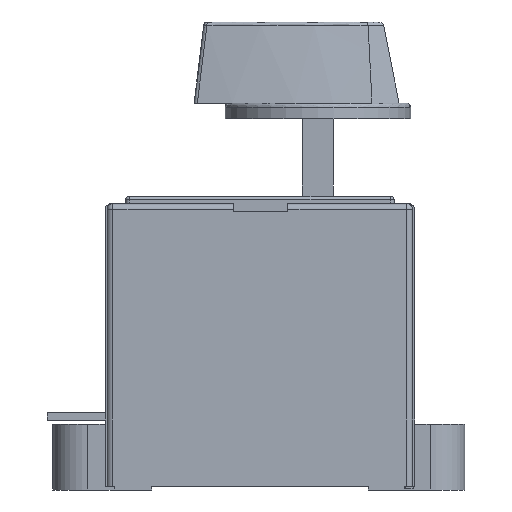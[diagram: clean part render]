
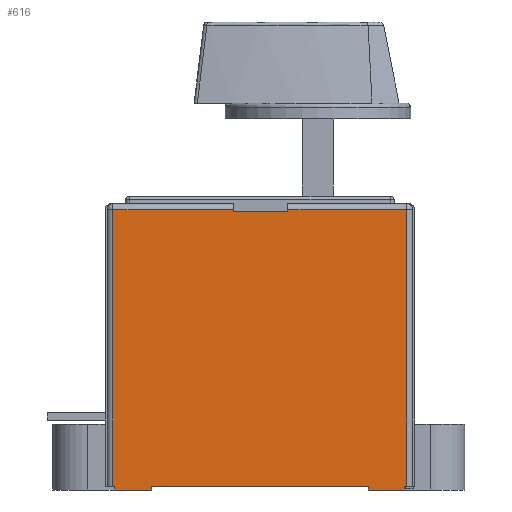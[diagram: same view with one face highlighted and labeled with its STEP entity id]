
A CAD part, left-side view. The second image highlights one B-rep face of the part: STEP entity #616.
In plain terms, the highlighted planar face has unit normal (-1, 0, 0).
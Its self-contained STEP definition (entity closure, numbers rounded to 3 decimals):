
#616=ADVANCED_FACE('',(#1213),#989,.F.);
#989=PLANE('',#6957);
#1213=FACE_OUTER_BOUND('',#1569,.T.);
#1569=EDGE_LOOP('',(#2405,#2406,#2407,#2408,#2409,#2410,#2411,#2412,#2413,
#2414,#2415,#2416,#2417,#2418,#2419,#2420));
#2405=ORIENTED_EDGE('',*,*,#4842,.F.);
#2406=ORIENTED_EDGE('',*,*,#4843,.T.);
#2407=ORIENTED_EDGE('',*,*,#4844,.T.);
#2408=ORIENTED_EDGE('',*,*,#4845,.F.);
#2409=ORIENTED_EDGE('',*,*,#4846,.T.);
#2410=ORIENTED_EDGE('',*,*,#4847,.T.);
#2411=ORIENTED_EDGE('',*,*,#4840,.T.);
#2412=ORIENTED_EDGE('',*,*,#4692,.T.);
#2413=ORIENTED_EDGE('',*,*,#4837,.F.);
#2414=ORIENTED_EDGE('',*,*,#4848,.F.);
#2415=ORIENTED_EDGE('',*,*,#4849,.T.);
#2416=ORIENTED_EDGE('',*,*,#4527,.T.);
#2417=ORIENTED_EDGE('',*,*,#4850,.F.);
#2418=ORIENTED_EDGE('',*,*,#4851,.F.);
#2419=ORIENTED_EDGE('',*,*,#4852,.T.);
#2420=ORIENTED_EDGE('',*,*,#4708,.T.);
#3912=VERTEX_POINT('',#9552);
#3913=VERTEX_POINT('',#9554);
#4069=VERTEX_POINT('',#9897);
#4070=VERTEX_POINT('',#9899);
#4081=VERTEX_POINT('',#9925);
#4084=VERTEX_POINT('',#9931);
#4164=VERTEX_POINT('',#10178);
#4166=VERTEX_POINT('',#10186);
#4167=VERTEX_POINT('',#10190);
#4168=VERTEX_POINT('',#10192);
#4169=VERTEX_POINT('',#10194);
#4170=VERTEX_POINT('',#10196);
#4171=VERTEX_POINT('',#10198);
#4172=VERTEX_POINT('',#10201);
#4173=VERTEX_POINT('',#10204);
#4174=VERTEX_POINT('',#10206);
#4527=EDGE_CURVE('',#3913,#3912,#5494,.T.);
#4692=EDGE_CURVE('',#4070,#4069,#5626,.T.);
#4708=EDGE_CURVE('',#4081,#4084,#5638,.T.);
#4837=EDGE_CURVE('',#4164,#4069,#5752,.T.);
#4840=EDGE_CURVE('',#4166,#4070,#5755,.T.);
#4842=EDGE_CURVE('',#4167,#4084,#5756,.T.);
#4843=EDGE_CURVE('',#4167,#4168,#5757,.T.);
#4844=EDGE_CURVE('',#4168,#4169,#5758,.T.);
#4845=EDGE_CURVE('',#4170,#4169,#5759,.T.);
#4846=EDGE_CURVE('',#4170,#4171,#5760,.T.);
#4847=EDGE_CURVE('',#4171,#4166,#5761,.T.);
#4848=EDGE_CURVE('',#4172,#4164,#5762,.T.);
#4849=EDGE_CURVE('',#4172,#3913,#5763,.T.);
#4850=EDGE_CURVE('',#4173,#3912,#5764,.T.);
#4851=EDGE_CURVE('',#4174,#4173,#5765,.T.);
#4852=EDGE_CURVE('',#4174,#4081,#5766,.T.);
#5494=LINE('',#9553,#6197);
#5626=LINE('',#9898,#6329);
#5638=LINE('',#9932,#6341);
#5752=LINE('',#10179,#6455);
#5755=LINE('',#10185,#6458);
#5756=LINE('',#10189,#6459);
#5757=LINE('',#10191,#6460);
#5758=LINE('',#10193,#6461);
#5759=LINE('',#10195,#6462);
#5760=LINE('',#10197,#6463);
#5761=LINE('',#10199,#6464);
#5762=LINE('',#10200,#6465);
#5763=LINE('',#10202,#6466);
#5764=LINE('',#10203,#6467);
#5765=LINE('',#10205,#6468);
#5766=LINE('',#10207,#6469);
#6197=VECTOR('',#7552,1.);
#6329=VECTOR('',#7796,1.);
#6341=VECTOR('',#7822,1.);
#6455=VECTOR('',#8042,1.);
#6458=VECTOR('',#8049,1.);
#6459=VECTOR('',#8054,1.);
#6460=VECTOR('',#8055,1.);
#6461=VECTOR('',#8056,1.);
#6462=VECTOR('',#8057,1.);
#6463=VECTOR('',#8058,1.);
#6464=VECTOR('',#8059,1.);
#6465=VECTOR('',#8060,1.);
#6466=VECTOR('',#8061,1.);
#6467=VECTOR('',#8062,1.);
#6468=VECTOR('',#8063,1.);
#6469=VECTOR('',#8064,1.);
#6957=AXIS2_PLACEMENT_3D('',#10208,#8065,#8066);
#7552=DIRECTION('',(0.,-1.,0.));
#7796=DIRECTION('',(0.,-1.,0.));
#7822=DIRECTION('',(0.,-1.,0.));
#8042=DIRECTION('',(0.,0.,1.));
#8049=DIRECTION('',(0.,0.,-1.));
#8054=DIRECTION('',(0.,0.,-1.));
#8055=DIRECTION('',(0.,1.,0.));
#8056=DIRECTION('',(0.,0.,-1.));
#8057=DIRECTION('',(0.,-1.,0.));
#8058=DIRECTION('',(0.,0.,1.));
#8059=DIRECTION('',(0.,1.,0.));
#8060=DIRECTION('',(0.,1.,0.));
#8061=DIRECTION('',(0.,0.,1.));
#8062=DIRECTION('',(0.,0.,1.));
#8063=DIRECTION('',(0.,1.,0.));
#8064=DIRECTION('',(0.,0.,1.));
#8065=DIRECTION('',(1.,0.,0.));
#8066=DIRECTION('',(0.,0.,-1.));
#9552=CARTESIAN_POINT('',(-69.,-52.735,-3.9));
#9553=CARTESIAN_POINT('',(-69.,-62.235,-3.9));
#9554=CARTESIAN_POINT('',(-69.,3.265,-3.9));
#9897=CARTESIAN_POINT('',(-69.,12.765,-3.9));
#9898=CARTESIAN_POINT('',(-69.,-62.235,-3.9));
#9899=CARTESIAN_POINT('',(-69.,13.265,-3.9));
#9925=CARTESIAN_POINT('',(-69.,-62.235,-3.9));
#9931=CARTESIAN_POINT('',(-69.,-62.735,-3.9));
#9932=CARTESIAN_POINT('',(-69.,-62.235,-3.9));
#10178=CARTESIAN_POINT('',(-69.,12.765,-4.9));
#10179=CARTESIAN_POINT('',(-69.,12.765,-5.9));
#10185=CARTESIAN_POINT('',(-69.,13.265,69.1));
#10186=CARTESIAN_POINT('',(-69.,13.265,67.6));
#10189=CARTESIAN_POINT('',(-69.,-62.735,69.1));
#10190=CARTESIAN_POINT('',(-69.,-62.735,67.6));
#10191=CARTESIAN_POINT('',(-69.,13.265,67.6));
#10192=CARTESIAN_POINT('',(-69.,-31.985,67.6));
#10193=CARTESIAN_POINT('',(-69.,-31.985,69.1));
#10194=CARTESIAN_POINT('',(-69.,-31.985,67.));
#10195=CARTESIAN_POINT('',(-69.,12.765,67.));
#10196=CARTESIAN_POINT('',(-69.,-17.985,67.));
#10197=CARTESIAN_POINT('',(-69.,-17.985,69.1));
#10198=CARTESIAN_POINT('',(-69.,-17.985,67.6));
#10199=CARTESIAN_POINT('',(-69.,13.265,67.6));
#10200=CARTESIAN_POINT('',(-69.,3.265,-4.9));
#10201=CARTESIAN_POINT('',(-69.,3.265,-4.9));
#10202=CARTESIAN_POINT('',(-69.,3.265,-5.9));
#10203=CARTESIAN_POINT('',(-69.,-52.735,-5.9));
#10204=CARTESIAN_POINT('',(-69.,-52.735,-4.9));
#10205=CARTESIAN_POINT('',(-69.,-62.235,-4.9));
#10206=CARTESIAN_POINT('',(-69.,-62.235,-4.9));
#10207=CARTESIAN_POINT('',(-69.,-62.235,-5.9));
#10208=CARTESIAN_POINT('',(-69.,-62.235,69.1));
